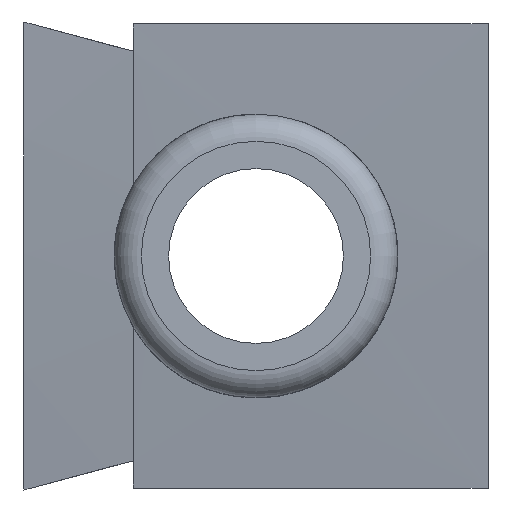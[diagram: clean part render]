
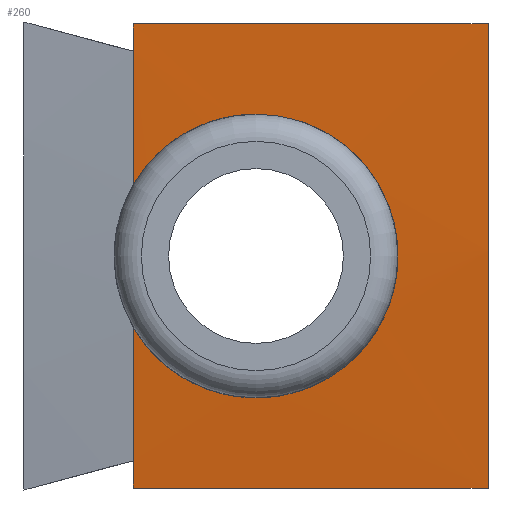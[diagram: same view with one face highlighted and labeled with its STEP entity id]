
A CAD part, left-side view. The second image highlights one B-rep face of the part: STEP entity #260.
In plain terms, the highlighted free-form (B-spline) face has degree [5, 1] with [6, 2] control points.
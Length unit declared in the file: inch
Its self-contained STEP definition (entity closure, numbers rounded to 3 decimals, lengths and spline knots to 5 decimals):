
#19=B_SPLINE_SURFACE_WITH_KNOTS('',5,1,((#470,#471),(#472,#473),(#474,#475),
(#476,#477),(#478,#479),(#480,#481)),.UNSPECIFIED.,.F.,.F.,.F.,(6,6),(2,
2),(0.29961,0.31958),(0.,1.651),.UNSPECIFIED.);
#20=B_SPLINE_CURVE_WITH_KNOTS('',3,(#403,#404,#405,#406,#407,#408,#409,
#410,#411,#412),.UNSPECIFIED.,.F.,.F.,(4,3,3,4),(-3.48086,-3.26287,
-3.00428,-2.78628),.UNSPECIFIED.);
#22=B_SPLINE_CURVE_WITH_KNOTS('',3,(#424,#425,#426,#427,#428,#429,#430,
#431,#432,#433,#434,#435,#436,#437,#438,#439,#440,#441,#442,#443,#444,#445,
#446,#447,#448,#449,#450,#451,#452,#453,#454,#455,#456,#457,#458,#459,#460,
#461,#462,#463,#464,#465,#466),.UNSPECIFIED.,.F.,.F.,(4,3,3,3,3,3,3,3,3,
3,3,3,3,3,4),(-2.78628,-2.74566,-2.49395,-2.24561,
-2.00041,-1.78944,-1.74021,-1.53141,
-1.29303,-1.02976,-0.76881,-0.53602,
-0.51509,-0.26497,0.),.UNSPECIFIED.);
#23=B_SPLINE_CURVE_WITH_KNOTS('',5,(#483,#484,#485,#486,#487,#488),
 .UNSPECIFIED.,.F.,.F.,(6,6),(0.30081,0.30663),
 .UNSPECIFIED.);
#24=B_SPLINE_CURVE_WITH_KNOTS('',5,(#490,#491,#492,#493,#494,#495),
 .UNSPECIFIED.,.F.,.F.,(6,6),(0.29961,0.30081),
 .UNSPECIFIED.);
#25=B_SPLINE_CURVE_WITH_KNOTS('',5,(#499,#500,#501,#502,#503,#504),
 .UNSPECIFIED.,.F.,.F.,(6,6),(0.29961,0.31958),
 .UNSPECIFIED.);
#26=B_SPLINE_CURVE_WITH_KNOTS('',5,(#508,#509,#510,#511,#512,#513),
 .UNSPECIFIED.,.F.,.F.,(6,6),(0.31842,0.31958),
 .UNSPECIFIED.);
#27=B_SPLINE_CURVE_WITH_KNOTS('',5,(#514,#515,#516,#517,#518,#519),
 .UNSPECIFIED.,.F.,.F.,(6,6),(0.31272,0.31842),
 .UNSPECIFIED.);
#43=FACE_OUTER_BOUND('',#60,.T.);
#60=EDGE_LOOP('',(#191,#192,#193,#194,#195,#196,#197,#198,#199));
#76=LINE('',#497,#96);
#77=LINE('',#506,#97);
#96=VECTOR('',#340,0.3937);
#97=VECTOR('',#341,0.3937);
#119=VERTEX_POINT('',#400);
#120=VERTEX_POINT('',#402);
#121=VERTEX_POINT('',#413);
#123=VERTEX_POINT('',#482);
#124=VERTEX_POINT('',#489);
#125=VERTEX_POINT('',#496);
#126=VERTEX_POINT('',#498);
#127=VERTEX_POINT('',#505);
#128=VERTEX_POINT('',#507);
#145=EDGE_CURVE('',#120,#119,#20,.T.);
#147=EDGE_CURVE('',#119,#121,#22,.T.);
#149=EDGE_CURVE('',#123,#121,#23,.T.);
#150=EDGE_CURVE('',#124,#123,#24,.T.);
#151=EDGE_CURVE('',#125,#124,#76,.T.);
#152=EDGE_CURVE('',#125,#126,#25,.T.);
#153=EDGE_CURVE('',#126,#127,#77,.T.);
#154=EDGE_CURVE('',#128,#127,#26,.T.);
#155=EDGE_CURVE('',#120,#128,#27,.T.);
#191=ORIENTED_EDGE('',*,*,#145,.T.);
#192=ORIENTED_EDGE('',*,*,#147,.T.);
#193=ORIENTED_EDGE('',*,*,#149,.F.);
#194=ORIENTED_EDGE('',*,*,#150,.F.);
#195=ORIENTED_EDGE('',*,*,#151,.F.);
#196=ORIENTED_EDGE('',*,*,#152,.T.);
#197=ORIENTED_EDGE('',*,*,#153,.T.);
#198=ORIENTED_EDGE('',*,*,#154,.F.);
#199=ORIENTED_EDGE('',*,*,#155,.F.);
#260=ADVANCED_FACE('',(#43),#19,.T.);
#340=DIRECTION('',(0.,1.,0.));
#341=DIRECTION('',(0.,1.,0.));
#400=CARTESIAN_POINT('',(-2.42854,0.425,8.73125));
#402=CARTESIAN_POINT('',(-2.41227,0.65,8.60154));
#403=CARTESIAN_POINT('Ctrl Pts',(-2.41227,0.65,8.60154));
#404=CARTESIAN_POINT('Ctrl Pts',(-2.41548,0.63575,8.62614));
#405=CARTESIAN_POINT('Ctrl Pts',(-2.41829,0.61755,8.64827));
#406=CARTESIAN_POINT('Ctrl Pts',(-2.42065,0.59608,8.66703));
#407=CARTESIAN_POINT('Ctrl Pts',(-2.42344,0.57062,8.68928));
#408=CARTESIAN_POINT('Ctrl Pts',(-2.42553,0.54103,8.70638));
#409=CARTESIAN_POINT('Ctrl Pts',(-2.42686,0.50894,8.71733));
#410=CARTESIAN_POINT('Ctrl Pts',(-2.42798,0.48189,8.72655));
#411=CARTESIAN_POINT('Ctrl Pts',(-2.42854,0.45353,8.73125));
#412=CARTESIAN_POINT('Ctrl Pts',(-2.42854,0.425,8.73125));
#413=CARTESIAN_POINT('',(-2.37573,0.65,8.34096));
#424=CARTESIAN_POINT('Ctrl Pts',(-2.42854,0.425,8.73125));
#425=CARTESIAN_POINT('Ctrl Pts',(-2.42854,0.41969,8.73125));
#426=CARTESIAN_POINT('Ctrl Pts',(-2.42852,0.41437,8.73109));
#427=CARTESIAN_POINT('Ctrl Pts',(-2.42848,0.40905,8.73076));
#428=CARTESIAN_POINT('Ctrl Pts',(-2.42824,0.37609,8.72873));
#429=CARTESIAN_POINT('Ctrl Pts',(-2.42724,0.34383,8.72045));
#430=CARTESIAN_POINT('Ctrl Pts',(-2.42552,0.31401,8.70637));
#431=CARTESIAN_POINT('Ctrl Pts',(-2.42382,0.28458,8.69248));
#432=CARTESIAN_POINT('Ctrl Pts',(-2.42144,0.25807,8.67321));
#433=CARTESIAN_POINT('Ctrl Pts',(-2.41845,0.23581,8.64959));
#434=CARTESIAN_POINT('Ctrl Pts',(-2.41549,0.21383,8.62628));
#435=CARTESIAN_POINT('Ctrl Pts',(-2.41199,0.19639,8.59914));
#436=CARTESIAN_POINT('Ctrl Pts',(-2.40806,0.18431,8.56958));
#437=CARTESIAN_POINT('Ctrl Pts',(-2.40468,0.17392,8.54414));
#438=CARTESIAN_POINT('Ctrl Pts',(-2.40103,0.16763,8.51724));
#439=CARTESIAN_POINT('Ctrl Pts',(-2.39723,0.16567,8.48988));
#440=CARTESIAN_POINT('Ctrl Pts',(-2.39634,0.16521,8.4835));
#441=CARTESIAN_POINT('Ctrl Pts',(-2.39545,0.16499,8.4771));
#442=CARTESIAN_POINT('Ctrl Pts',(-2.39455,0.165,8.4707));
#443=CARTESIAN_POINT('Ctrl Pts',(-2.39075,0.16506,8.44356));
#444=CARTESIAN_POINT('Ctrl Pts',(-2.38688,0.16936,8.4166));
#445=CARTESIAN_POINT('Ctrl Pts',(-2.38311,0.17776,8.39079));
#446=CARTESIAN_POINT('Ctrl Pts',(-2.3788,0.18735,8.36132));
#447=CARTESIAN_POINT('Ctrl Pts',(-2.37467,0.20214,8.33377));
#448=CARTESIAN_POINT('Ctrl Pts',(-2.37097,0.22147,8.30946));
#449=CARTESIAN_POINT('Ctrl Pts',(-2.36689,0.24282,8.2826));
#450=CARTESIAN_POINT('Ctrl Pts',(-2.3634,0.26932,8.26018));
#451=CARTESIAN_POINT('Ctrl Pts',(-2.36079,0.29948,8.24355));
#452=CARTESIAN_POINT('Ctrl Pts',(-2.3582,0.32938,8.22707));
#453=CARTESIAN_POINT('Ctrl Pts',(-2.35653,0.36227,8.21662));
#454=CARTESIAN_POINT('Ctrl Pts',(-2.35593,0.39629,8.21284));
#455=CARTESIAN_POINT('Ctrl Pts',(-2.3554,0.42664,8.20947));
#456=CARTESIAN_POINT('Ctrl Pts',(-2.35572,0.45731,8.21147));
#457=CARTESIAN_POINT('Ctrl Pts',(-2.35687,0.48691,8.21873));
#458=CARTESIAN_POINT('Ctrl Pts',(-2.35697,0.48957,8.21938));
#459=CARTESIAN_POINT('Ctrl Pts',(-2.35708,0.49222,8.22007));
#460=CARTESIAN_POINT('Ctrl Pts',(-2.3572,0.49486,8.22081));
#461=CARTESIAN_POINT('Ctrl Pts',(-2.3586,0.52644,8.22962));
#462=CARTESIAN_POINT('Ctrl Pts',(-2.36092,0.55602,8.24431));
#463=CARTESIAN_POINT('Ctrl Pts',(-2.36399,0.58206,8.26405));
#464=CARTESIAN_POINT('Ctrl Pts',(-2.36724,0.60964,8.28495));
#465=CARTESIAN_POINT('Ctrl Pts',(-2.37126,0.63272,8.31112));
#466=CARTESIAN_POINT('Ctrl Pts',(-2.37573,0.65,8.34096));
#470=CARTESIAN_POINT('Ctrl Pts',(-2.32842,0.,8.04625));
#471=CARTESIAN_POINT('Ctrl Pts',(-2.32842,0.65,8.04625));
#472=CARTESIAN_POINT('Ctrl Pts',(-2.3567,0.,8.2115));
#473=CARTESIAN_POINT('Ctrl Pts',(-2.3567,0.65,8.2115));
#474=CARTESIAN_POINT('Ctrl Pts',(-2.38321,0.,8.38064));
#475=CARTESIAN_POINT('Ctrl Pts',(-2.38321,0.65,8.38064));
#476=CARTESIAN_POINT('Ctrl Pts',(-2.40745,0.,8.55237));
#477=CARTESIAN_POINT('Ctrl Pts',(-2.40745,0.65,8.55237));
#478=CARTESIAN_POINT('Ctrl Pts',(-2.42895,0.,8.72487));
#479=CARTESIAN_POINT('Ctrl Pts',(-2.42895,0.65,8.72487));
#480=CARTESIAN_POINT('Ctrl Pts',(-2.44734,0.,8.89625));
#481=CARTESIAN_POINT('Ctrl Pts',(-2.44734,0.65,8.89625));
#482=CARTESIAN_POINT('',(-2.33688,0.65,8.09625));
#483=CARTESIAN_POINT('Ctrl Pts',(-2.33688,0.65,8.09625));
#484=CARTESIAN_POINT('Ctrl Pts',(-2.34499,0.65,8.14464));
#485=CARTESIAN_POINT('Ctrl Pts',(-2.35295,0.65,8.19335));
#486=CARTESIAN_POINT('Ctrl Pts',(-2.36073,0.65,8.24233));
#487=CARTESIAN_POINT('Ctrl Pts',(-2.36833,0.65,8.29154));
#488=CARTESIAN_POINT('Ctrl Pts',(-2.37573,0.65,8.34096));
#489=CARTESIAN_POINT('',(-2.32842,0.65,8.04625));
#490=CARTESIAN_POINT('Ctrl Pts',(-2.32842,0.65,8.04625));
#491=CARTESIAN_POINT('Ctrl Pts',(-2.33012,0.65,8.05622));
#492=CARTESIAN_POINT('Ctrl Pts',(-2.33182,0.65,8.06621));
#493=CARTESIAN_POINT('Ctrl Pts',(-2.33352,0.65,8.07621));
#494=CARTESIAN_POINT('Ctrl Pts',(-2.3352,0.65,8.08622));
#495=CARTESIAN_POINT('Ctrl Pts',(-2.33688,0.65,8.09625));
#496=CARTESIAN_POINT('',(-2.32842,0.,8.04625));
#497=CARTESIAN_POINT('',(-2.32842,0.,8.04625));
#498=CARTESIAN_POINT('',(-2.44734,0.,8.89625));
#499=CARTESIAN_POINT('Ctrl Pts',(-2.32842,0.,8.04625));
#500=CARTESIAN_POINT('Ctrl Pts',(-2.3567,0.,8.2115));
#501=CARTESIAN_POINT('Ctrl Pts',(-2.38321,0.,8.38064));
#502=CARTESIAN_POINT('Ctrl Pts',(-2.40745,0.,8.55237));
#503=CARTESIAN_POINT('Ctrl Pts',(-2.42895,0.,8.72487));
#504=CARTESIAN_POINT('Ctrl Pts',(-2.44734,0.,8.89625));
#505=CARTESIAN_POINT('',(-2.44734,0.65,8.89625));
#506=CARTESIAN_POINT('',(-2.44734,0.,8.89625));
#507=CARTESIAN_POINT('',(-2.44187,0.65,8.84625));
#508=CARTESIAN_POINT('Ctrl Pts',(-2.44187,0.65,8.84625));
#509=CARTESIAN_POINT('Ctrl Pts',(-2.44299,0.65,8.85626));
#510=CARTESIAN_POINT('Ctrl Pts',(-2.44409,0.65,8.86626));
#511=CARTESIAN_POINT('Ctrl Pts',(-2.44518,0.65,8.87626));
#512=CARTESIAN_POINT('Ctrl Pts',(-2.44627,0.65,8.88626));
#513=CARTESIAN_POINT('Ctrl Pts',(-2.44734,0.65,8.89625));
#514=CARTESIAN_POINT('Ctrl Pts',(-2.41227,0.65,8.60154));
#515=CARTESIAN_POINT('Ctrl Pts',(-2.41864,0.65,8.65044));
#516=CARTESIAN_POINT('Ctrl Pts',(-2.4248,0.65,8.6994));
#517=CARTESIAN_POINT('Ctrl Pts',(-2.43074,0.65,8.74839));
#518=CARTESIAN_POINT('Ctrl Pts',(-2.43643,0.65,8.79735));
#519=CARTESIAN_POINT('Ctrl Pts',(-2.44187,0.65,8.84625));
